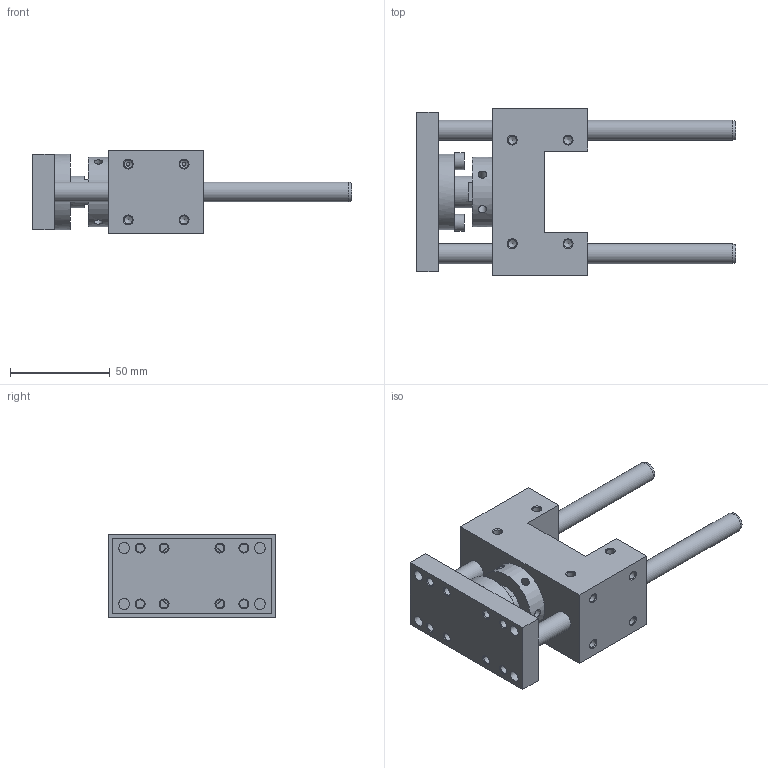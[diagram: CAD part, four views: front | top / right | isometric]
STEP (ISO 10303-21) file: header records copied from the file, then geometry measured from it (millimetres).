
FILE_DESCRIPTION( ( 'STEP AP214' ), '1' );
FILE_NAME( 'U:/Etudes/Top Solid/BIBLIO 3D AVM/TOP/PNEUMATIQUE/GUIDAGES/Type 34 (en U)/_Légère/3431110.step', '2005-05-27T12:16:26', ( ' ' ), ( ' ' ), 'XStep 1.0', ' ', ' ' );
FILE_SCHEMA( ( 'automotive_design' ) );
Length unit declared in the file: metre
Products named in the file (2): 1; 2
Bounding box: 160 x 84 x 42 mm (x, y, z)
Volume: 182454.8 mm3; surface area: 51472.5 mm2
Topology: 2 solids, 5 shells, 176 faces, 458 edges, 295 vertices
Faces by surface type: cylinder 69, plane 57, cone 50
Full cylindrical faces by diameter (mm): 4.134 x36, 4.2 x6, 5 x4, 5.5 x6, 8.5 x2, 8.647 x2, 10 x4, 16 x1, 18 x1, 20.376 x2, 22.8 x1, 25 x2, 35 x1, 38 x1
Entity records: 6505 total; most frequent: CARTESIAN_POINT 1502, DIRECTION 764, ORIENTED_EDGE 526, EDGE_LOOP 356, AXIS2_PLACEMENT_3D 341, EDGE_CURVE 263, FACE_OUTER_BOUND 245, VERTEX_POINT 231
